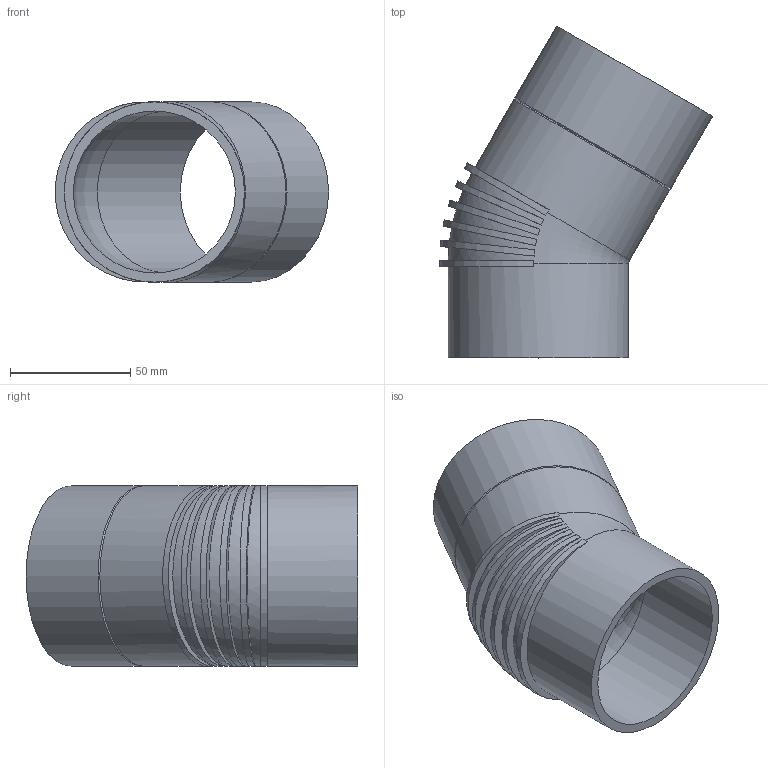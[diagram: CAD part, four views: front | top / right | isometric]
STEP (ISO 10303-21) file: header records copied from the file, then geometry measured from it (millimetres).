
FILE_DESCRIPTION(/* description */ (''),/* implementation_level */ '2;1');
FILE_NAME(/* name */ 'Z:\Geberit\Export\NewStep\Bogen_Ipart\stp\307300.stp',/* time_stamp */ '2014-04-03T16:42:16+02:00',/* author */ ('Marco'),/* organization */ (''),/* preprocessor_version */ 'ST-DEVELOPER v15.2',/* originating_system */ 'Autodesk Inventor 2014',/* authorisation */ '');
FILE_SCHEMA (('AUTOMOTIVE_DESIGN { 1 0 10303 214 3 1 1 }'));
Length unit declared in the file: millimetre
Products named in the file (1): 307300
Bounding box: 113.64 x 138.03 x 75 mm (x, y, z)
Volume: 114550.7 mm3; surface area: 63382.8 mm2
Topology: 1 solids, 1 shells, 29 faces, 78 edges, 51 vertices
Faces by surface type: plane 14, cylinder 11, cone 2, torus 2
Full cylindrical faces by diameter (mm): 67.4 x2, 75 x3
Entity records: 1186 total; most frequent: CARTESIAN_POINT 522, ORIENTED_EDGE 122, DIRECTION 114, EDGE_CURVE 61, AXIS2_PLACEMENT_3D 55, VERTEX_POINT 47, EDGE_LOOP 44, B_SPLINE_CURVE_WITH_KNOTS 32
